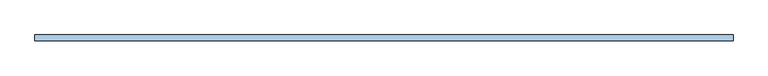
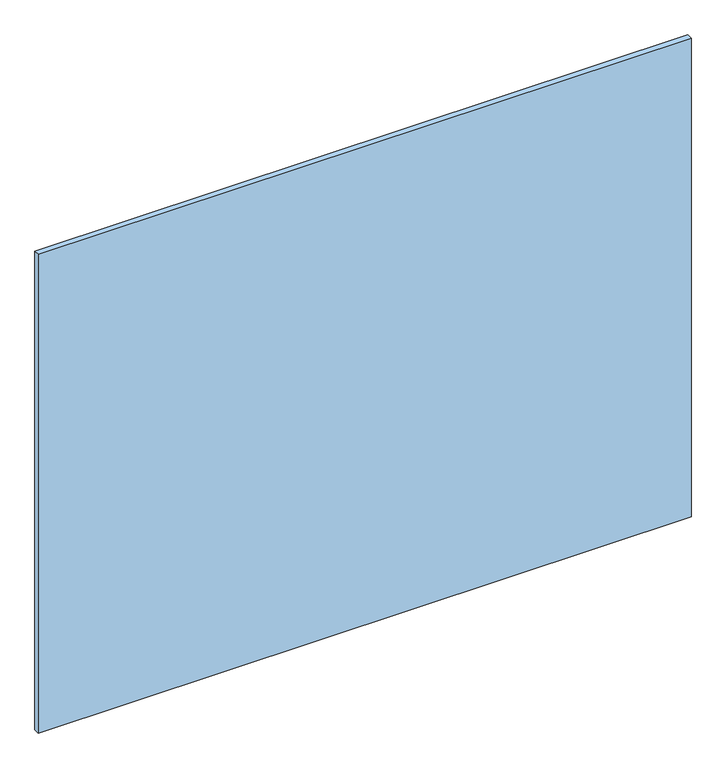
"""IFC4 building model written with IfcOpenShell, lengths in millimetres: window geometry, espejo biselado sin marco : ESP-13-espejo biselado 120 x 102."""

from ifc_helpers import new_model, si_unit, origin, origin_with_axes, place, context, project, spatial, polyline, outline, extrude, source, transform, mapped, element, save


def window_dd6b89b7(model_context):
    return source(origin(), model_context, "Body", "SweptSolid", [
        extrude(outline(polyline([(-645.0, 99.0), (-645.0, 110.0), (645.0, 110.0), (645.0, 99.0), (-645.0, 99.0)])), origin_with_axes(), (0.0, 0.0, 1.0), 1000.0),
    ])


if __name__ == "__main__":
    model = new_model("IFC4")
    model_context = context("Model", 3, world=origin())
    ifc_project = project(units=[si_unit("LENGTHUNIT", "METRE", prefix="MILLI")], contexts=[model_context])
    site = spatial("IfcSite", under=ifc_project)
    building = spatial("IfcBuilding", under=site)
    placement = place(None, origin())
    window_shape = window_dd6b89b7(model_context)
    element("IfcWindow", 1, ObjectType="espejo biselado sin marco : ESP-13-espejo biselado 120 x 102", at=placement, inside=building, context=model_context, shape_type="MappedRepresentation", body=[
        mapped(window_shape, transform((0.0, 0.0, 0.0), x_axis=(1.0, 0.0, 0.0), y_axis=(0.0, 1.0, 0.0), z_axis=(0.0, 0.0, 1.0))),
    ])
    save(model, "model.ifc")
